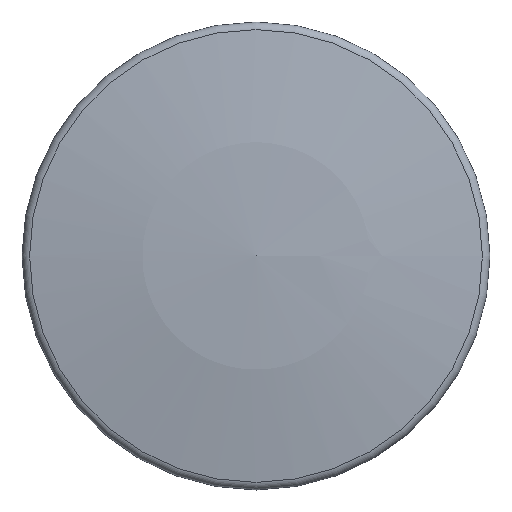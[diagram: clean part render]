
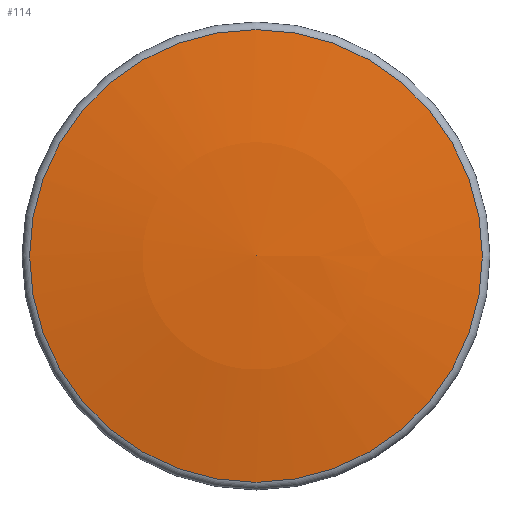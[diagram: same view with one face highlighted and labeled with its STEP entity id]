
A CAD part, top view. The second image highlights one B-rep face of the part: STEP entity #114.
In plain terms, the highlighted spherical face has radius 141.402 mm.
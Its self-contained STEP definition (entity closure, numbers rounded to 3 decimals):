
#28=FACE_OUTER_BOUND($,#38,.T.);
#38=EDGE_LOOP($,(#83));
#56=CIRCLE($,#128,24.574);
#65=VERTEX_POINT($,#188);
#74=EDGE_CURVE($,#65,#65,#56,.T.);
#83=ORIENTED_EDGE($,*,*,#74,.F.);
#101=SPHERICAL_SURFACE($,#127,141.402);
#114=ADVANCED_FACE($,(#28),#101,.T.);
#127=AXIS2_PLACEMENT_3D($,#187,#148,#149);
#128=AXIS2_PLACEMENT_3D($,#189,#150,#151);
#148=DIRECTION('center_axis',(0.,0.,1.));
#149=DIRECTION('ref_axis',(1.,0.,0.));
#150=DIRECTION('center_axis',(0.,0.,-1.));
#151=DIRECTION('ref_axis',(1.,0.,0.));
#187=CARTESIAN_POINT('Origin',(0.,0.,-100.602));
#188=CARTESIAN_POINT('',(0.,24.574,38.648));
#189=CARTESIAN_POINT('Origin',(0.,0.,38.648));
